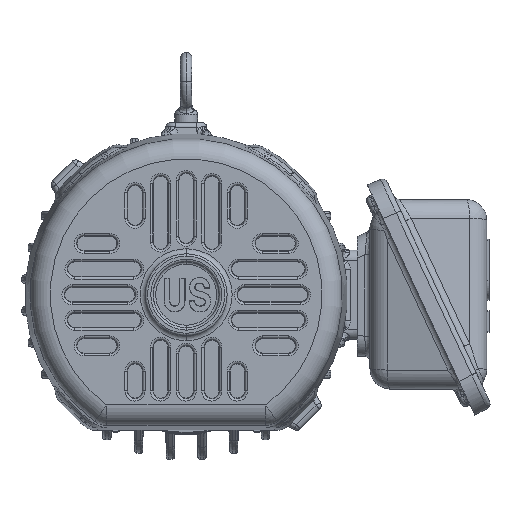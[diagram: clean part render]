
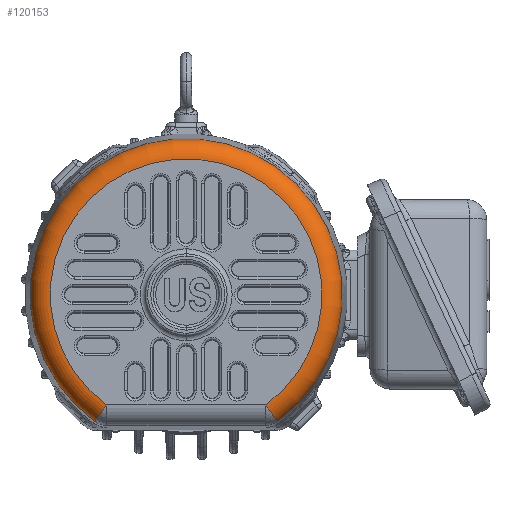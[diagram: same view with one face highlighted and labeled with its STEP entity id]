
A CAD part, top view. The second image highlights one B-rep face of the part: STEP entity #120153.
In plain terms, the highlighted toroidal (fillet/blend) face has major radius 84.952 mm and minor radius 12.7 mm.
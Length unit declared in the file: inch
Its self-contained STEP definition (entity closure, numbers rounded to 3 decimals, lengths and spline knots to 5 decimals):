
#115186=CARTESIAN_POINT('',(-1.95378,-2.71458,-2.38));
#115187=DIRECTION('',(0.812,-0.584,0.));
#115188=DIRECTION('',(-0.583,-0.811,
-0.052));
#115189=AXIS2_PLACEMENT_3D('',#115186,#115187,#115188);
#115191=CARTESIAN_POINT('',(0.,0.,-2.88));
#115192=DIRECTION('',(0.,0.,-1.));
#115193=DIRECTION('',(-0.584,-0.812,0.));
#115194=AXIS2_PLACEMENT_3D('',#115191,#115192,#115193);
#115196=CARTESIAN_POINT('',(1.95378,-2.71458,-2.38));
#115197=DIRECTION('',(-0.812,-0.584,0.));
#115198=DIRECTION('',(0.,0.,-1.));
#115199=AXIS2_PLACEMENT_3D('',#115196,#115197,#115198);
#115201=CARTESIAN_POINT('',(0.,0.,-2.40617));
#115202=DIRECTION('',(0.,0.,1.));
#115203=DIRECTION('',(0.584,-0.812,0.));
#115204=AXIS2_PLACEMENT_3D('',#115201,#115202,#115203);
#115331=CARTESIAN_POINT('',(-2.24547,-3.11985,
-2.40617));
#119344=VERTEX_POINT('',#115331);
#119345=CARTESIAN_POINT('',(-1.95378,-2.71458,-2.88));
#119346=VERTEX_POINT('',#119345);
#119349=CARTESIAN_POINT('',(1.95378,-2.71458,-2.88));
#119350=VERTEX_POINT('',#119349);
#119351=CARTESIAN_POINT('',(2.24547,-3.11985,
-2.40617));
#119352=VERTEX_POINT('',#119351);
#120140=CARTESIAN_POINT('',(0.,0.,-2.38));
#120141=DIRECTION('',(0.,0.,1.));
#120142=DIRECTION('',(0.,1.,0.));
#120143=AXIS2_PLACEMENT_3D('',#120140,#120141,#120142);
#120144=TOROIDAL_SURFACE('',#120143,3.34458,0.5);
#120145=ORIENTED_EDGE('',*,*,#120133,.T.);
#120146=ORIENTED_EDGE('',*,*,#119459,.T.);
#120148=ORIENTED_EDGE('',*,*,#120147,.T.);
#120150=ORIENTED_EDGE('',*,*,#120149,.T.);
#120151=EDGE_LOOP('',(#120145,#120146,#120148,#120150));
#120152=FACE_OUTER_BOUND('',#120151,.F.);
#120153=ADVANCED_FACE('',(#120152),#120144,.T.);
#115190=CIRCLE('',#115189,0.5);
#115195=CIRCLE('',#115194,3.34458);
#115200=CIRCLE('',#115199,0.5);
#115205=CIRCLE('',#115204,3.8439);
#119459=EDGE_CURVE('',#119346,#119350,#115195,.T.);
#120133=EDGE_CURVE('',#119344,#119346,#115190,.T.);
#120147=EDGE_CURVE('',#119350,#119352,#115200,.T.);
#120149=EDGE_CURVE('',#119352,#119344,#115205,.T.);
